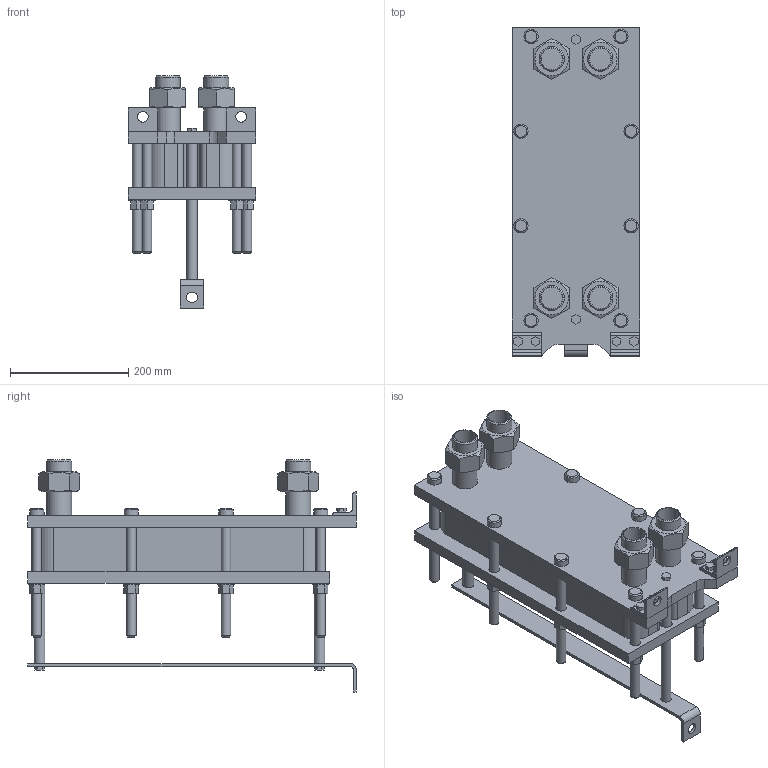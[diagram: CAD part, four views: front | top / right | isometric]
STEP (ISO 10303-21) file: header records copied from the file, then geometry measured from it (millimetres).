
FILE_DESCRIPTION(/* description */ (''),/* implementation_level */ '2;1');
FILE_NAME(/* name */ 'C:\Users\zhuro\Desktop\ENCO\TO\ЭН-004\ЭН-0,5-004-24-1.stp',/* time_stamp */ '2022-06-06T10:45:21+03:00',/* author */ ('zhuro'),/* organization */ (''),/* preprocessor_version */ 'ST-DEVELOPER v18.1',/* originating_system */ 'Autodesk Inventor 2022',/* authorisation */ '');
FILE_SCHEMA (('AUTOMOTIVE_DESIGN { 1 0 10303 214 3 1 1 }'));
Length unit declared in the file: millimetre
Products named in the file (1): ЭН-0,5-004-24-1
Bounding box: 216 x 555 x 392.2 mm (x, y, z)
Volume: 11067437.2 mm3; surface area: 1120202.3 mm2
Topology: 40 solids, 40 shells, 403 faces, 865 edges, 574 vertices
Faces by surface type: plane 272, cylinder 103, cone 28
Full cylindrical faces by diameter (mm): 10 x4, 16 x16, 18 x29, 20 x2, 24 x8, 28 x8, 36.3 x5, 42.3 x9
Entity records: 11137 total; most frequent: CARTESIAN_POINT 1939, DIRECTION 1879, ORIENTED_EDGE 1730, EDGE_CURVE 865, AXIS2_PLACEMENT_3D 658, VERTEX_POINT 574, LINE 563, VECTOR 563
